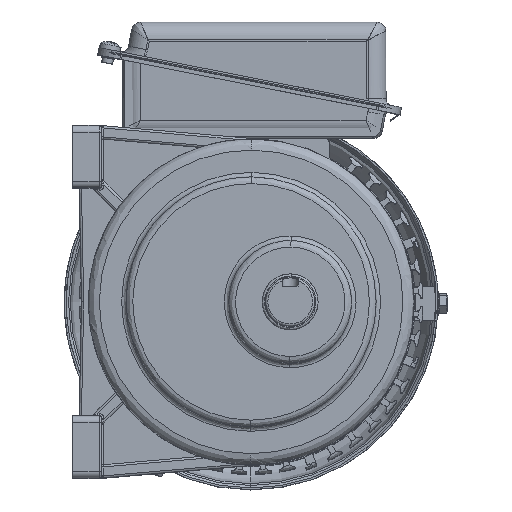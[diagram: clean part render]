
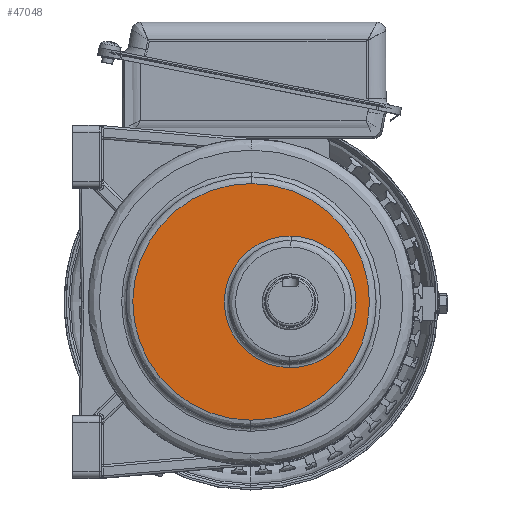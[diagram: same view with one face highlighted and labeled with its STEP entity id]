
A CAD part, top view. The second image highlights one B-rep face of the part: STEP entity #47048.
In plain terms, the highlighted planar face has unit normal (0, 0, 1) as drawn and (0, 1, 0) by its records, which use the part's own axes.
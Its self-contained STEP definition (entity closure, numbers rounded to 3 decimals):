
#9490 = VERTEX_POINT ( 'NONE', #48453 ) ;
#9713 = VERTEX_POINT ( 'NONE', #48450 ) ;
#10472 = VERTEX_POINT ( 'NONE', #48445 ) ;
#46890 = EDGE_CURVE ( 'NONE', #9490, #9713, #52029, .T. ) ;
#46893 = EDGE_LOOP ( 'NONE', ( #46972, #46973 ) ) ;
#46972 = ORIENTED_EDGE ( 'NONE', *, *, #47036, .F. ) ;
#46973 = ORIENTED_EDGE ( 'NONE', *, *, #54183, .F. ) ;
#46975 = EDGE_LOOP ( 'NONE', ( #46977, #46979 ) ) ;
#46977 = ORIENTED_EDGE ( 'NONE', *, *, #46890, .T. ) ;
#46979 = ORIENTED_EDGE ( 'NONE', *, *, #54145, .T. ) ;
#47036 = EDGE_CURVE ( 'NONE', #54184, #10472, #52234, .T. ) ;
#47048 = ADVANCED_FACE ( 'NONE', ( #52251, #52250 ), #52249, .T. ) ;
#48445 = CARTESIAN_POINT ( 'NONE',  ( -29.497, 68., -17.894 ) ) ;
#48450 = CARTESIAN_POINT ( 'NONE',  ( -52.999, 68., -0.348 ) ) ;
#48453 = CARTESIAN_POINT ( 'NONE',  ( 52.999, 68., 0.348 ) ) ;
#52025 = DIRECTION ( 'NONE',  ( 1., 0., 0. ) ) ;
#52026 = DIRECTION ( 'NONE',  ( 0., 1., 0. ) ) ;
#52027 = CARTESIAN_POINT ( 'NONE',  ( 0., 68., 0. ) ) ;
#52028 = AXIS2_PLACEMENT_3D ( 'NONE', #52027, #52026, #52025 ) ;
#52029 = CIRCLE ( 'NONE', #52028, 53. ) ;
#52230 = DIRECTION ( 'NONE',  ( -1., 0., 0. ) ) ;
#52231 = DIRECTION ( 'NONE',  ( 0., 1., 0. ) ) ;
#52232 = CARTESIAN_POINT ( 'NONE',  ( 0., 68., -17.5 ) ) ;
#52233 = AXIS2_PLACEMENT_3D ( 'NONE', #52232, #52231, #52230 ) ;
#52234 = CIRCLE ( 'NONE', #52233, 29.5 ) ;
#52245 = DIRECTION ( 'NONE',  ( 0., 1., 0. ) ) ;
#52246 = CARTESIAN_POINT ( 'NONE',  ( 0., 68., 0. ) ) ;
#52248 = AXIS2_PLACEMENT_3D ( 'NONE', #52246, #52245, #52281 ) ;
#52249 = PLANE ( 'NONE',  #52248 ) ;
#52250 = FACE_OUTER_BOUND ( 'NONE', #46975, .T. ) ;
#52251 = FACE_BOUND ( 'NONE', #46893, .T. ) ;
#52281 = DIRECTION ( 'NONE',  ( 0., 0., 1. ) ) ;
#52652 = DIRECTION ( 'NONE',  ( 1., 0., 0. ) ) ;
#52653 = DIRECTION ( 'NONE',  ( 0., 1., 0. ) ) ;
#52654 = CARTESIAN_POINT ( 'NONE',  ( 0., 68., 0. ) ) ;
#52655 = AXIS2_PLACEMENT_3D ( 'NONE', #52654, #52653, #52652 ) ;
#52665 = CIRCLE ( 'NONE', #52655, 53. ) ;
#52763 = CARTESIAN_POINT ( 'NONE',  ( 29.497, 68., -17.106 ) ) ;
#52764 = DIRECTION ( 'NONE',  ( -1., 0., 0. ) ) ;
#52765 = DIRECTION ( 'NONE',  ( 0., 1., 0. ) ) ;
#52766 = CARTESIAN_POINT ( 'NONE',  ( 0., 68., -17.5 ) ) ;
#52767 = AXIS2_PLACEMENT_3D ( 'NONE', #52766, #52765, #52764 ) ;
#52768 = CIRCLE ( 'NONE', #52767, 29.5 ) ;
#54145 = EDGE_CURVE ( 'NONE', #9713, #9490, #52665, .T. ) ;
#54183 = EDGE_CURVE ( 'NONE', #10472, #54184, #52768, .T. ) ;
#54184 = VERTEX_POINT ( 'NONE', #52763 ) ;
